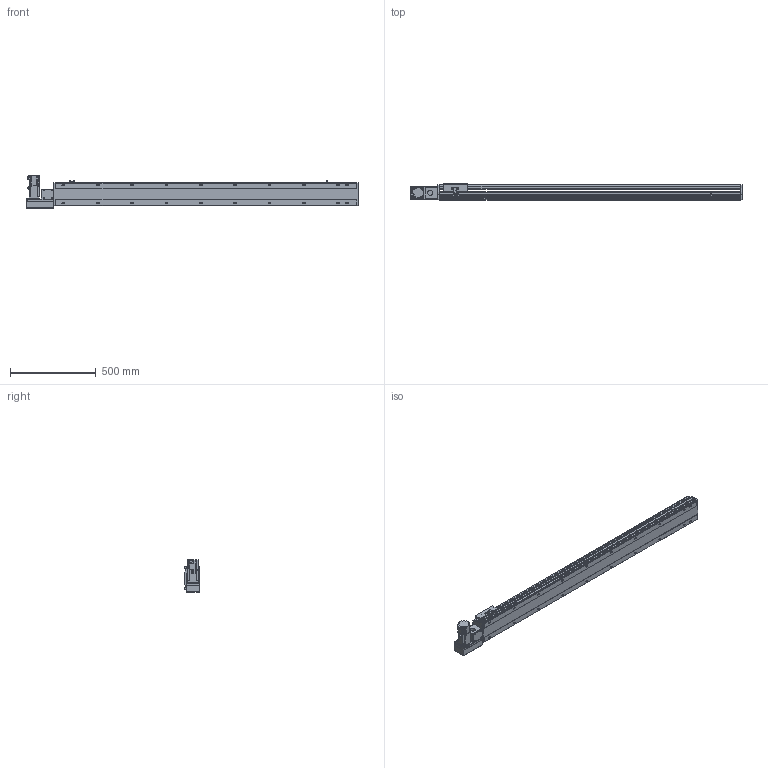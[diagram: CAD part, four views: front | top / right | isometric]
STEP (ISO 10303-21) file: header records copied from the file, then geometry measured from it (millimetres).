
FILE_DESCRIPTION(/* description */ ('STEP AP214'),/* implementation_level */ '2;1');
FILE_NAME(/* name */ 'PBS140S-P40-S1500-L-T40-C1-N(0)',/* time_stamp */ '2022-06-09T02:02:12+02:00',/* author */ ('License CC BY-ND 4.0'),/* organization */ ('CADENAS'),/* preprocessor_version */ 'ST-DEVELOPER v18.102',/* originating_system */ 'PARTsolutions',/* authorisation */ ' ');
FILE_SCHEMA (('AUTOMOTIVE_DESIGN {1 0 10303 214 3 1 1}'));
Length unit declared in the file: millimetre
Products named in the file (7): PBS140S-P40-S1500-L-T40-C1-N(0); PBS140S_sensor; PBS140S_plant; PBS140S_sliser; T40-p1; PBS140ST-L_motors; PBS140S-S1500()_body
Assembly tree (8 placements, depth 2):
  PBS140S-P40-S1500-L-T40-C1-N(0)
    PBS140S_sensor  x3
    PBS140S_plant
    PBS140S_sliser
    T40-p1
    PBS140ST-L_motors
    PBS140S-S1500()_body
Bounding box: 1933 x 93 x 189.7 mm (x, y, z)
Volume: 9314719.7 mm3; surface area: 1592332.8 mm2
Topology: 8 solids, 8 shells, 1131 faces, 2991 edges, 1957 vertices
Faces by surface type: plane 714, cylinder 361, cone 46, sphere 8, torus 2
Full cylindrical faces by diameter (mm): 3.242 x4, 4 x2, 4.134 x4, 4.4 x8, 4.5 x2, 4.8 x4, 4.917 x28, 5.5 x7, 6 x2, 7 x22, 7.5 x8, 8 x12, 8.5 x4, 10.5 x20, 14 x1, 30 x2, 50 x2
Entity records: 32412 total; most frequent: CARTESIAN_POINT 6040, DIRECTION 5488, ORIENTED_EDGE 5182, EDGE_CURVE 2591, AXIS2_PLACEMENT_3D 1919, VERTEX_POINT 1801, LINE 1650, VECTOR 1650
